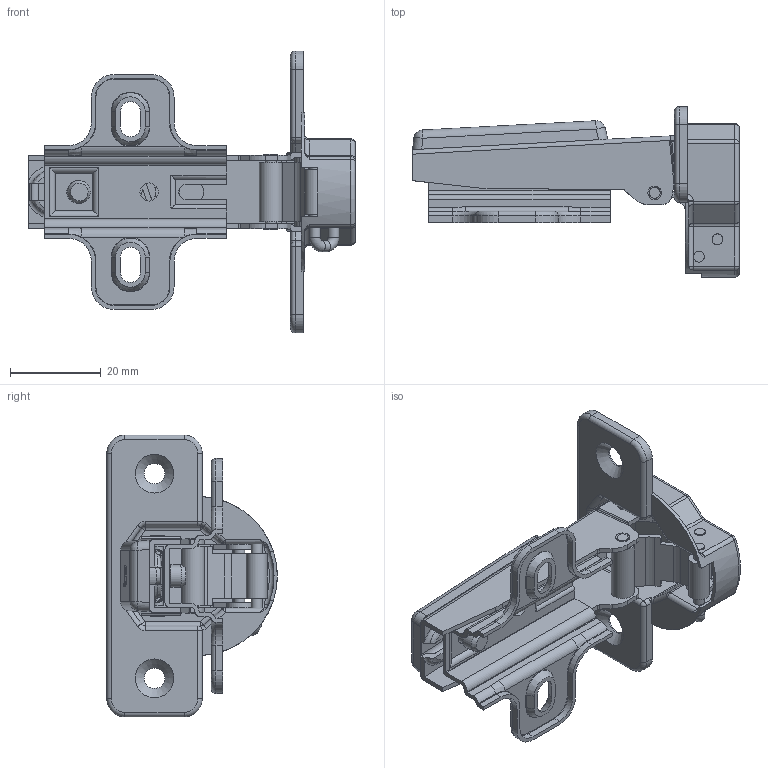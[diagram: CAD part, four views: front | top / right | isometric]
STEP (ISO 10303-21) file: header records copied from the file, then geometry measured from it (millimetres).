
FILE_DESCRIPTION(/* description */ (''),/* implementation_level */ '2;1');
FILE_NAME(/* name */ 'W:\R&D\pub\Katalog techniczny\bryły 3D\ZP-POH045BEO.stp',/* time_stamp */ '2016-09-14T10:44:16+02:00',/* author */ ('tomaszw'),/* organization */ (''),/* preprocessor_version */ 'ST-DEVELOPER v16.1',/* originating_system */ 'Autodesk Inventor 2016',/* authorisation */ '');
FILE_SCHEMA (('AUTOMOTIVE_DESIGN { 1 0 10303 214 3 1 1 }'));
Length unit declared in the file: millimetre
Products named in the file (12): ZP-PO(7)H045(Z)BE(O)_P; ZP-PO(7)H045(Z)BE(O)_L1; ZP-PO(7)H045(Z)BE(O)_L2; ZP-PO(7)H045(Z)BE(O)_pin3; ZP-POH045_R; ZP-POH045_pin1; ZP-POH045_pin2; PrPO0; Wkret4x6; WR; ZP-PO_pok; ZP-PO(7)H045(Z)BE(O)
Assembly tree (11 placements, depth 2):
  ZP-PO(7)H045(Z)BE(O)
    ZP-PO(7)H045(Z)BE(O)_P
    ZP-PO(7)H045(Z)BE(O)_L1
    ZP-PO(7)H045(Z)BE(O)_L2
    ZP-PO(7)H045(Z)BE(O)_pin3
    ZP-POH045_R
    ZP-POH045_pin1
    ZP-POH045_pin2
    PrPO0
    Wkret4x6
    WR
    ZP-PO_pok
Bounding box: 71.92 x 37.5 x 62 mm (x, y, z)
Volume: 8298.4 mm3; surface area: 20356.5 mm2
Topology: 11 solids, 11 shells, 788 faces, 1972 edges, 1217 vertices
Faces by surface type: cylinder 312, plane 301, torus 70, bspline 47, sphere 40, cone 18
Full cylindrical faces by diameter (mm): 2.4 x16, 2.8 x3, 3 x4, 3.242 x1, 4 x2, 4.5 x2, 5 x1, 5.9 x2, 6 x2, 7 x1
Entity records: 25014 total; most frequent: CARTESIAN_POINT 5548, DIRECTION 4050, ORIENTED_EDGE 3838, EDGE_CURVE 1919, AXIS2_PLACEMENT_3D 1504, VERTEX_POINT 1209, LINE 1042, VECTOR 1042
